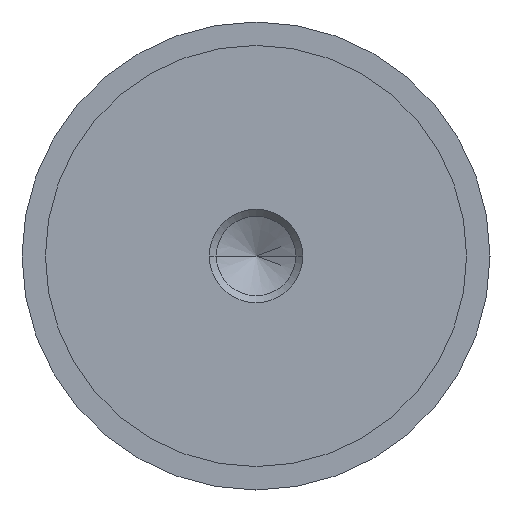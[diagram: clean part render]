
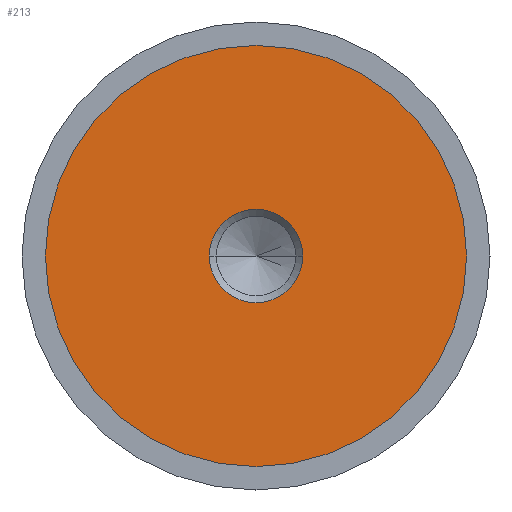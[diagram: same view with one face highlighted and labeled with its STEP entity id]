
A CAD part, left-side view. The second image highlights one B-rep face of the part: STEP entity #213.
In plain terms, the highlighted planar face has unit normal (-1, 0, 0).
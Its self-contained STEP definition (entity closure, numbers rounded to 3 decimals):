
#5 = ORIENTED_EDGE ( 'NONE', *, *, #781, .T. ) ;
#6 = DIRECTION ( 'NONE',  ( 0., 0., 1. ) ) ;
#14 = CARTESIAN_POINT ( 'NONE',  ( -9.99, 0., 0. ) ) ;
#52 = EDGE_LOOP ( 'NONE', ( #5, #298 ) ) ;
#58 = AXIS2_PLACEMENT_3D ( 'NONE', #107, #293, #105 ) ;
#61 = CARTESIAN_POINT ( 'NONE',  ( -9.99, 0., 0. ) ) ;
#105 = DIRECTION ( 'NONE',  ( 0., 0., -1. ) ) ;
#107 = CARTESIAN_POINT ( 'NONE',  ( -9.99, 0., 0. ) ) ;
#124 = DIRECTION ( 'NONE',  ( 0., 0., 1. ) ) ;
#140 = VERTEX_POINT ( 'NONE', #574 ) ;
#175 = DIRECTION ( 'NONE',  ( 0., 0., -1. ) ) ;
#183 = CIRCLE ( 'NONE', #195, 18. ) ;
#191 = VERTEX_POINT ( 'NONE', #300 ) ;
#195 = AXIS2_PLACEMENT_3D ( 'NONE', #14, #567, #6 ) ;
#213 = ADVANCED_FACE ( 'NONE', ( #307, #432 ), #364, .F. ) ;
#244 = DIRECTION ( 'NONE',  ( -1., 0., 0. ) ) ;
#281 = CARTESIAN_POINT ( 'NONE',  ( -9.99, 0., -18. ) ) ;
#293 = DIRECTION ( 'NONE',  ( 1., 0., 0. ) ) ;
#298 = ORIENTED_EDGE ( 'NONE', *, *, #668, .T. ) ;
#300 = CARTESIAN_POINT ( 'NONE',  ( -9.99, 0., 18. ) ) ;
#307 = FACE_BOUND ( 'NONE', #52, .T. ) ;
#332 = CIRCLE ( 'NONE', #346, 3.99 ) ;
#339 = EDGE_CURVE ( 'NONE', #191, #555, #522, .T. ) ;
#346 = AXIS2_PLACEMENT_3D ( 'NONE', #439, #372, #175 ) ;
#348 = ORIENTED_EDGE ( 'NONE', *, *, #686, .T. ) ;
#364 = PLANE ( 'NONE',  #739 ) ;
#366 = DIRECTION ( 'NONE',  ( 0., 0., -1. ) ) ;
#372 = DIRECTION ( 'NONE',  ( 1., 0., 0. ) ) ;
#379 = AXIS2_PLACEMENT_3D ( 'NONE', #61, #244, #124 ) ;
#432 = FACE_OUTER_BOUND ( 'NONE', #636, .T. ) ;
#435 = CARTESIAN_POINT ( 'NONE',  ( -9.99, 18., 0. ) ) ;
#439 = CARTESIAN_POINT ( 'NONE',  ( -9.99, 0., 0. ) ) ;
#501 = DIRECTION ( 'NONE',  ( 1., 0., 0. ) ) ;
#522 = CIRCLE ( 'NONE', #379, 18. ) ;
#536 = CIRCLE ( 'NONE', #58, 3.99 ) ;
#555 = VERTEX_POINT ( 'NONE', #281 ) ;
#567 = DIRECTION ( 'NONE',  ( -1., 0., 0. ) ) ;
#574 = CARTESIAN_POINT ( 'NONE',  ( -9.99, 3.99, 0. ) ) ;
#585 = ORIENTED_EDGE ( 'NONE', *, *, #339, .T. ) ;
#636 = EDGE_LOOP ( 'NONE', ( #585, #348 ) ) ;
#668 = EDGE_CURVE ( 'NONE', #140, #731, #536, .T. ) ;
#686 = EDGE_CURVE ( 'NONE', #555, #191, #183, .T. ) ;
#723 = CARTESIAN_POINT ( 'NONE',  ( -9.99, -3.99, 0. ) ) ;
#731 = VERTEX_POINT ( 'NONE', #723 ) ;
#739 = AXIS2_PLACEMENT_3D ( 'NONE', #435, #501, #366 ) ;
#781 = EDGE_CURVE ( 'NONE', #731, #140, #332, .T. ) ;
